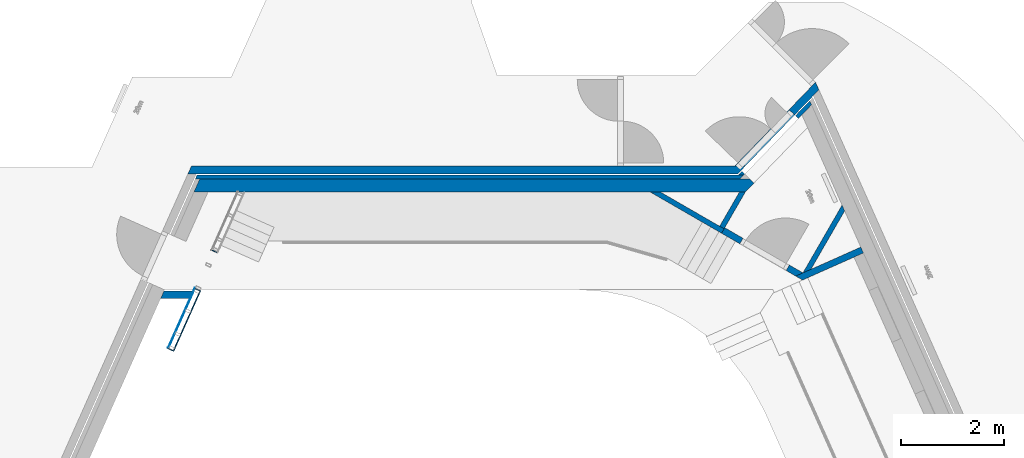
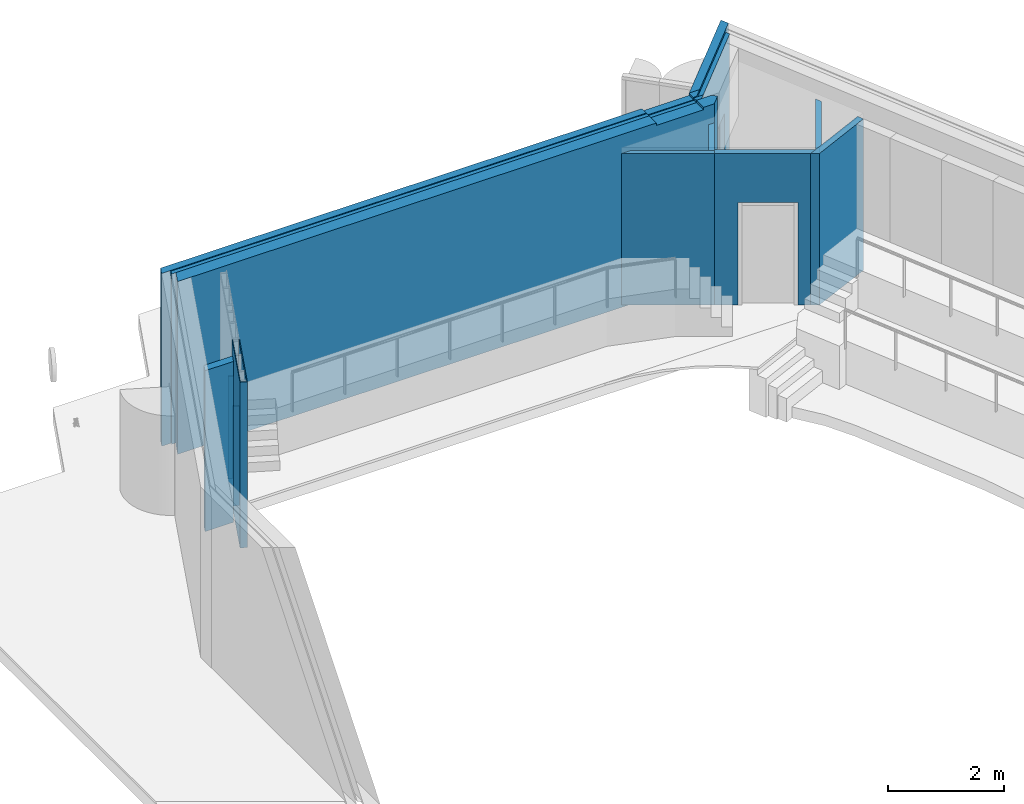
# One storey, part 9 of 16: 16 walls, 8 openings.
"""IFC2X3 building model written with IfcOpenShell, lengths in millimetres."""

from ifc_helpers import new_model, entity, si_unit, converted_unit, derived_unit, direction, frame, frame_2d, origin, place, context, subcontext, project, spatial, polyline, rectangle, outline, extrude, clip, halfspace, faceted_brep, material, layer, layer_set, layer_usage, type_object, element, save


model = new_model("IFC2X3")

# Units and contexts
model_context = context("Model", 3, precision=0.01, world=origin(), true_north=direction((6.123031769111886e-17, 1.0)))
body_context = subcontext(model_context, "Body", "Model", "MODEL_VIEW")
ifc_project = project(units=[si_unit("LENGTHUNIT", "METRE", prefix="MILLI"), si_unit("AREAUNIT", "SQUARE_METRE"), si_unit("VOLUMEUNIT", "CUBIC_METRE"), converted_unit("PLANEANGLEUNIT", "DEGREE", entity("IfcRatioMeasure", 0.017453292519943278), si_unit("PLANEANGLEUNIT", "RADIAN"), dimensions=[0, 0, 0, 0, 0, 0, 0]), si_unit("MASSUNIT", "GRAM", prefix="KILO"), derived_unit("MASSDENSITYUNIT", [(si_unit("MASSUNIT", "GRAM", prefix="KILO"), 1), (si_unit("LENGTHUNIT", "METRE"), -3)]), derived_unit("MOMENTOFINERTIAUNIT", [(si_unit("LENGTHUNIT", "METRE"), 4)]), si_unit("TIMEUNIT", "SECOND"), si_unit("FREQUENCYUNIT", "HERTZ"), si_unit("THERMODYNAMICTEMPERATUREUNIT", "DEGREE_CELSIUS"), derived_unit("THERMALTRANSMITTANCEUNIT", [(si_unit("MASSUNIT", "GRAM", prefix="KILO"), 1), (si_unit("THERMODYNAMICTEMPERATUREUNIT", "KELVIN"), -1), (si_unit("TIMEUNIT", "SECOND"), -3)]), derived_unit("VOLUMETRICFLOWRATEUNIT", [(si_unit("LENGTHUNIT", "METRE"), 3), (si_unit("TIMEUNIT", "SECOND"), -1)]), derived_unit("MASSFLOWRATEUNIT", [(si_unit("MASSUNIT", "GRAM", prefix="KILO"), 1), (si_unit("TIMEUNIT", "SECOND"), -1)]), derived_unit("ROTATIONALFREQUENCYUNIT", [(si_unit("TIMEUNIT", "SECOND"), -1)]), si_unit("ELECTRICCURRENTUNIT", "AMPERE"), si_unit("ELECTRICVOLTAGEUNIT", "VOLT"), si_unit("POWERUNIT", "WATT"), si_unit("FORCEUNIT", "NEWTON", prefix="KILO"), si_unit("ILLUMINANCEUNIT", "LUX"), si_unit("LUMINOUSFLUXUNIT", "LUMEN"), si_unit("LUMINOUSINTENSITYUNIT", "CANDELA"), derived_unit("USERDEFINED", [(si_unit("MASSUNIT", "GRAM", prefix="KILO"), -1), (si_unit("LENGTHUNIT", "METRE"), -2), (si_unit("TIMEUNIT", "SECOND"), 3), (si_unit("LUMINOUSFLUXUNIT", "LUMEN"), 1)]), derived_unit("SOUNDPOWERUNIT", [(si_unit("MASSUNIT", "GRAM", prefix="KILO"), 1), (si_unit("LENGTHUNIT", "METRE"), 2), (si_unit("TIMEUNIT", "SECOND"), -3)]), derived_unit("SOUNDPRESSUREUNIT", [(si_unit("MASSUNIT", "GRAM", prefix="KILO"), 1), (si_unit("LENGTHUNIT", "METRE"), -1), (si_unit("TIMEUNIT", "SECOND"), -2)]), derived_unit("LINEARVELOCITYUNIT", [(si_unit("LENGTHUNIT", "METRE"), 1), (si_unit("TIMEUNIT", "SECOND"), -1)]), si_unit("PRESSUREUNIT", "PASCAL"), derived_unit("USERDEFINED", [(si_unit("LENGTHUNIT", "METRE"), -2), (si_unit("MASSUNIT", "GRAM", prefix="KILO"), 1), (si_unit("TIMEUNIT", "SECOND"), -2)]), derived_unit("LINEARFORCEUNIT", [(si_unit("MASSUNIT", "GRAM", prefix="KILO"), 1), (si_unit("LENGTHUNIT", "METRE"), 1), (si_unit("TIMEUNIT", "SECOND"), -2), (si_unit("LENGTHUNIT", "METRE"), -1)]), derived_unit("PLANARFORCEUNIT", [(si_unit("MASSUNIT", "GRAM", prefix="KILO"), 1), (si_unit("LENGTHUNIT", "METRE"), 1), (si_unit("TIMEUNIT", "SECOND"), -2), (si_unit("LENGTHUNIT", "METRE"), -2)])], contexts=[model_context])

# Site, building, storey
site_placement = place(None, frame((-10000.0, -10000.0, 0.0)))
site = spatial("IfcSite", under=ifc_project, at=site_placement, Name="Default", CompositionType="ELEMENT")
building_placement = place(site_placement, origin())
building = spatial("IfcBuilding", under=site, at=building_placement, CompositionType="ELEMENT")
storey_placement = place(building_placement, frame((0.0, 0.0, 9000.0)))
storey = spatial("IfcBuildingStorey", under=building, at=storey_placement, Name="02 2e verdieping", CompositionType="ELEMENT", Elevation=9000.0)

# Wall, openings
ifc_material_1 = material(Name="NLRS_beton ihwg")
ifc_layer_1 = layer(ifc_material_1, 250.00000000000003)
ifc_layer_set_1 = layer_set([ifc_layer_1], Name="Basic Wall:NLRS_21_WA_beton 250mm_ags")
ifc_layer_usage_1 = layer_usage(ifc_layer_set_1, "AXIS2", "NEGATIVE", 125.00000000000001)
wall_type_1 = type_object("IfcWallType", Name="Basic Wall:NLRS_21_WA_beton 250mm_ags", PredefinedType="STANDARD", material=ifc_layer_set_1)
wall_1_placement = place(storey_placement, frame((28023.813445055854, 49277.0, -50.0)))
wall_1 = element("IfcWallStandardCase", 1, at=wall_1_placement, inside=storey, type_object=wall_type_1, material=ifc_layer_usage_1, Name="Basic Wall:NLRS_21_WA_beton 250mm_ags", ObjectType="Basic Wall:NLRS_21_WA_beton 250mm_ags", context=body_context, shape_type="Clipping", body=[
    clip(extrude(outline(polyline([(10722.450231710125, -125.0), (10890.335858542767, 48.989062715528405), (10811.561564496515, 125.0), (10616.272859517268, 125.0), (111.30717132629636, 125.0), (0.0, -125.0), (273.65906962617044, -125.0), (10722.450231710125, -125.0)])), origin(), (0.0, 0.0, 1.0), 3649.9999999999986), halfspace(frame((0.0, 0.0, -50.0)), True)),
])
opening_1_placement = place(wall_1_placement, origin())
element("IfcOpeningElement", 2, at=opening_1_placement, cuts=wall_1, Name="Basic Wall:NLRS_21_WA_beton 250mm_ags", ObjectType="Opening", context=body_context, shape_type="SweptSolid", body=[
    extrude(rectangle(XDim=2220.0, YDim=939.9999999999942, at=frame_2d((-1.1368683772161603e-12, 0.0), x_axis=(1.0, 0.0))), frame((10037.45023171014, -125.0, 4710.0), z_axis=(0.0, 1.0, 0.0), x_axis=(0.0, 0.0, -1.0)), (0.0, 0.0, 1.0), 249.99999999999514),
])
opening_2_placement = place(wall_1_placement, frame((10703.29303011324, 41.99002499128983, 0.0)))
element("IfcOpeningElement", 3, at=opening_2_placement, cuts=wall_1, Name="Basic Wall:NLRS_21_WA_beton 250mm_ags", ObjectType="Recess", context=body_context, shape_type="Brep", body=[
    faceted_brep([(194.29631424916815, 0.0, 2220.0), (1232.857734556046, 1076.3180356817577, 2220.0), (1114.3952003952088, 1342.3892437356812, 2220.0), (0.0, 187.48051170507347, 2220.0), (194.29631424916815, 0.0, 0.0), (0.0, 187.48051170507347, 0.0), (1114.3952003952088, 1342.3892437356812, 0.0), (1232.857734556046, 1076.3180356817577, 0.0)], [[[0, 1, 2, 3]], [[4, 5, 6, 7]], [[1, 0, 4, 7]], [[2, 1, 7, 6]], [[3, 2, 6, 5]], [[0, 3, 5, 4]]]),
])

# Wall, opening
ifc_material_2 = material(Name="NLRS_kalkzandsteen")
ifc_layer_2 = layer(ifc_material_2, 150.0)
ifc_layer_set_2 = layer_set([ifc_layer_2], Name="Basic Wall:NLRS_22_WA_kalkzandsteen 150mm_ags")
ifc_layer_usage_2 = layer_usage(ifc_layer_set_2, "AXIS2", "NEGATIVE", 75.0)
wall_type_2 = type_object("IfcWallType", Name="Basic Wall:NLRS_22_WA_kalkzandsteen 150mm_ags", PredefinedType="STANDARD", material=ifc_layer_set_2)
wall_2_placement = place(storey_placement, frame((27905.984415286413, 49577.0, -50.0)))
wall_2 = element("IfcWallStandardCase", 4, at=wall_2_placement, inside=storey, type_object=wall_type_2, material=ifc_layer_usage_2, Name="Basic Wall:NLRS_22_WA_kalkzandsteen 150mm_ags", ObjectType="Basic Wall:NLRS_22_WA_kalkzandsteen 150mm_ags", context=body_context, shape_type="Clipping", body=[
    clip(extrude(outline(polyline([(10691.741641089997, -75.0), (10836.479727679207, 75.0), (10628.035217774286, 75.0), (66.78430279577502, 75.0), (0.0, -75.0), (164.19544177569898, -75.0), (10691.741641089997, -75.0)])), origin(), (0.0, 0.0, 1.0), 3649.9999999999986), halfspace(frame((0.0, 0.0, -50.0)), True)),
])
opening_3_placement = place(wall_2_placement, origin())
element("IfcOpeningElement", 5, at=opening_3_placement, cuts=wall_2, Name="Basic Wall:NLRS_22_WA_kalkzandsteen 150mm_ags", ObjectType="Opening", context=body_context, shape_type="SweptSolid", body=[
    extrude(rectangle(XDim=2220.0, YDim=939.9999999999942, at=frame_2d((-1.1368683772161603e-12, 0.0), x_axis=(1.0, 0.0))), frame((10155.27926147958, -75.0, 4710.0), z_axis=(0.0, 1.0, 0.0), x_axis=(0.0, 0.0, -1.0)), (0.0, 0.0, 1.0), 150.00000000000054),
])

ifc_layer_usage_3 = layer_usage(ifc_layer_set_2, "AXIS2", "NEGATIVE", 75.0)
wall_3_placement = place(storey_placement, frame((38587.990831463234, 49599.92208008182, -50.0), z_axis=(0.0, 0.0, 1.0), x_axis=(0.6943722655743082, 0.7196159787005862, 0.0)))
wall_3 = element("IfcWallStandardCase", 6, at=wall_3_placement, inside=storey, type_object=wall_type_2, material=ifc_layer_usage_3, Name="Basic Wall:NLRS_22_WA_kalkzandsteen 150mm_ags", ObjectType="Basic Wall:NLRS_22_WA_kalkzandsteen 150mm_ags", context=body_context, shape_type="Clipping", body=[
    clip(extrude(outline(polyline([(2210.0027851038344, -75.0), (2270.676115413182, 75.0), (0.0, 75.0), (144.73808658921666, -75.0), (2048.1965645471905, -75.0), (2210.0027851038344, -75.0)])), origin(), (0.0, 0.0, 1.0), 3649.9999999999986), halfspace(frame((0.0, 0.0, -50.0)), True)),
])
opening_4_placement = place(wall_3_placement, origin())
element("IfcOpeningElement", 7, at=opening_4_placement, cuts=wall_3, Name="Basic Wall:NLRS_22_WA_kalkzandsteen 150mm_ags", ObjectType="Opening", context=body_context, shape_type="SweptSolid", body=[
    extrude(rectangle(XDim=2170.0000000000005, YDim=1499.7610140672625, at=frame_2d((0.0, -4.661160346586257e-12), x_axis=(1.0, 0.0))), frame((779.2293278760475, -227.4000000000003, 1135.0), z_axis=(0.0, 1.0, 0.0), x_axis=(0.0, 0.0, 1.0)), (0.0, 0.0, 1.0), 454.79999999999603),
])

# Wall
ifc_material_3 = material(Name="NLRS_MDF")
ifc_layer_3 = layer(ifc_material_3, 12.5)
ifc_material_4 = material(Name="NLRS_gipsplaat")
ifc_layer_4 = layer(ifc_material_4, 12.5)
ifc_material_5 = material(Name="NLRS_aluminium C-profielen met isolatie")
ifc_layer_5 = layer(ifc_material_5, 75.0)
ifc_layer_6 = layer(ifc_material_4, 12.5)
ifc_layer_7 = layer(ifc_material_4, 12.5)
ifc_layer_set_3 = layer_set([ifc_layer_3, ifc_layer_4, ifc_layer_5, ifc_layer_6, ifc_layer_7], Name="Basic Wall:NLRS_22_WA_ms-wand mdf gips iso gips gips 125mm 25-75-25_ags")
ifc_layer_usage_4 = layer_usage(ifc_layer_set_3, "AXIS2", "NEGATIVE", 62.50000000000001)
wall_type_3 = type_object("IfcWallType", Name="Basic Wall:NLRS_22_WA_ms-wand mdf gips iso gips gips 125mm 25-75-25_ags", PredefinedType="STANDARD", material=ifc_layer_set_3)
wall_4_placement = place(storey_placement, frame((41016.2962945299, 48022.74735275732, 0.0), z_axis=(0.0, 0.0, 1.0), x_axis=(-0.9135931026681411, -0.40662961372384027, 0.0)))
element("IfcWallStandardCase", 8, at=wall_4_placement, inside=storey, type_object=wall_type_3, material=ifc_layer_usage_4, Name="Basic Wall:NLRS_22_WA_ms-wand mdf gips iso gips gips 125mm 25-75-25_ags", ObjectType="Basic Wall:NLRS_22_WA_ms-wand mdf gips iso gips gips 125mm 25-75-25_ags", context=body_context, shape_type="SweptSolid", body=[
    extrude(outline(polyline([(1386.1603890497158, -62.49999999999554), (1295.3201965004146, 62.49999999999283), (0.0, 62.50000000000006), (0.0, -62.500000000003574), (1061.5360044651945, -62.5000000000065), (1231.638738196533, -62.49999999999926), (1386.1603890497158, -62.49999999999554)])), origin(), (0.0, 0.0, 1.0), 3200.0),
])

# Wall, opening
ifc_layer_usage_5 = layer_usage(ifc_layer_set_3, "AXIS2", "NEGATIVE", 62.50000000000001)
wall_5_placement = place(storey_placement, frame((39834.41528747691, 47524.899549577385, 0.0), z_axis=(0.0, 0.0, 1.0), x_axis=(-0.8660254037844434, 0.4999999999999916, 0.0)))
wall_5 = element("IfcWallStandardCase", 9, at=wall_5_placement, inside=storey, type_object=wall_type_3, material=ifc_layer_usage_5, Name="Basic Wall:NLRS_22_WA_ms-wand mdf gips iso gips gips 125mm 25-75-25_ags", ObjectType="Basic Wall:NLRS_22_WA_ms-wand mdf gips iso gips gips 125mm 25-75-25_ags", context=body_context, shape_type="SweptSolid", body=[
    extrude(outline(polyline([(0.0, -62.4999999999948), (1755.9171632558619, -62.499999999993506), (1755.9171632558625, 62.50000000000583), (90.84019254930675, 62.50000000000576), (0.0, -62.4999999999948)])), origin(), (0.0, 0.0, 1.0), 3200.0),
])
opening_5_placement = place(wall_5_placement, origin())
element("IfcOpeningElement", 10, at=opening_5_placement, cuts=wall_5, Name="Basic Wall:NLRS_22_WA_ms-wand mdf gips iso gips gips 125mm 25-75-25_ags", ObjectType="Opening", context=body_context, shape_type="SweptSolid", body=[
    extrude(rectangle(XDim=2170.0000000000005, YDim=1039.9999999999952, at=frame_2d((-3.751665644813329e-12, 0.0), x_axis=(0.0, 1.0))), frame((825.5443286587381, -214.89999999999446, 1085.0), z_axis=(0.0, 1.0, 0.0), x_axis=(-1.0, 0.0, 0.0)), (0.0, 0.0, 1.0), 429.79999999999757),
])

# Walls
ifc_layer_8 = layer(ifc_material_3, 12.5)
ifc_layer_9 = layer(ifc_material_4, 12.5)
ifc_layer_10 = layer(ifc_material_5, 75.0)
ifc_layer_set_4 = layer_set([ifc_layer_8, ifc_layer_9, ifc_layer_10], Name="Basic Wall:NLRS_22_WA_ms-wand mdf gips iso 100mm 25-75_ags")
ifc_layer_usage_6 = layer_usage(ifc_layer_set_4, "AXIS2", "POSITIVE", -50.0)
wall_type_4 = type_object("IfcWallType", Name="Basic Wall:NLRS_22_WA_ms-wand mdf gips iso 100mm 25-75_ags", PredefinedType="STANDARD", material=ifc_layer_set_4)
wall_6_placement = place(storey_placement, frame((36916.19463832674, 49195.30127018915, 0.0), z_axis=(0.0, 0.0, 1.0), x_axis=(0.8660254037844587, -0.4999999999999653, 0.0)))
element("IfcWallStandardCase", 11, at=wall_6_placement, inside=storey, type_object=wall_type_4, material=ifc_layer_usage_6, Name="Basic Wall:NLRS_22_WA_ms-wand mdf gips iso 100mm 25-75_ags", ObjectType="Basic Wall:NLRS_22_WA_ms-wand mdf gips iso 100mm 25-75_ags", context=body_context, shape_type="SweptSolid", body=[
    extrude(outline(polyline([(1606.5369130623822, -50.0), (1606.5369130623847, 50.0), (1506.5369130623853, 50.0), (173.20508075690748, 50.0), (0.0, -50.0), (1606.5369130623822, -50.0)])), origin(), (0.0, 0.0, 1.0), 3200.0),
])
ifc_layer_11 = layer(ifc_material_4, 12.5)
ifc_layer_12 = layer(ifc_material_4, 12.5)
ifc_layer_13 = layer(ifc_material_5, 75.0)
ifc_layer_set_5 = layer_set([ifc_layer_11, ifc_layer_12, ifc_layer_13], Name="Basic Wall:NLRS_22_WA_ms-wand gips iso 100mm 25-75_ags")
ifc_layer_usage_7 = layer_usage(ifc_layer_set_5, "AXIS2", "NEGATIVE", 50.0)
wall_type_5 = type_object("IfcWallType", Name="Basic Wall:NLRS_22_WA_ms-wand gips iso 100mm 25-75_ags", PredefinedType="STANDARD", material=ifc_layer_set_5)
wall_7_placement = place(storey_placement, frame((38702.96240657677, 49177.0, 0.0), z_axis=(0.0, 0.0, 1.0), x_axis=(-0.49999999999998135, -0.8660254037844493, 0.0)))
element("IfcWallStandardCase", 12, at=wall_7_placement, inside=storey, type_object=wall_type_5, material=ifc_layer_usage_7, Name="Basic Wall:NLRS_22_WA_ms-wand gips iso 100mm 25-75_ags", ObjectType="Basic Wall:NLRS_22_WA_ms-wand gips iso 100mm 25-75_ags", context=body_context, shape_type="SweptSolid", body=[
    extrude(outline(polyline([(827.5345192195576, -50.0), (827.534519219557, 50.0), (0.0, 50.0), (57.73502691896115, -50.0), (827.5345192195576, -50.0)])), origin(), (0.0, 0.0, 1.0), 3200.0),
])
ifc_layer_usage_8 = layer_usage(ifc_layer_set_5, "AXIS2", "NEGATIVE", 50.0)
wall_8_placement = place(storey_placement, frame((39908.966557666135, 47554.0261373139, 0.0), z_axis=(0.0, 0.0, 1.0), x_axis=(0.4999999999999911, 0.8660254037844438, 0.0)))
element("IfcWallStandardCase", 13, at=wall_8_placement, inside=storey, type_object=wall_type_5, material=ifc_layer_usage_8, Name="Basic Wall:NLRS_22_WA_ms-wand gips iso 100mm 25-75_ags", ObjectType="Basic Wall:NLRS_22_WA_ms-wand gips iso 100mm 25-75_ags", context=body_context, shape_type="SweptSolid", body=[
    extrude(outline(polyline([(1449.725890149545, -50.0), (1522.3801429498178, 50.0), (0.0, 50.0), (137.60428780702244, -50.0), (1449.725890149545, -50.0)])), origin(), (0.0, 0.0, 1.0), 3200.0),
])
ifc_material_6 = material(Name="NLRS_multiplex")
ifc_layer_14 = layer(ifc_material_6, 18.0)
ifc_layer_set_6 = layer_set([ifc_layer_14], Name="Basic Wall:NLRS_42_WA_multiplex 18mm_ags")
ifc_layer_usage_9 = layer_usage(ifc_layer_set_6, "AXIS2", "NEGATIVE", 9.000000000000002)
wall_type_6 = type_object("IfcWallType", Name="Basic Wall:NLRS_42_WA_multiplex 18mm_ags", PredefinedType="STANDARD", material=ifc_layer_set_6)
wall_9_placement = place(storey_placement, frame((27514.67111806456, 46113.51809799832, 0.0), z_axis=(0.0, 0.0, 1.0), x_axis=(0.9135205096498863, -0.40679267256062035, 0.0)))
element("IfcWallStandardCase", 14, at=wall_9_placement, inside=storey, type_object=wall_type_6, material=ifc_layer_usage_9, Name="Basic Wall:NLRS_42_WA_multiplex 18mm_ags", ObjectType="Basic Wall:NLRS_42_WA_multiplex 18mm_ags", context=body_context, shape_type="Clipping", body=[
    clip(extrude(rectangle(XDim=131.01615960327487, YDim=17.999999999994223, at=frame_2d((65.5080798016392, -1.9557688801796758e-12), x_axis=(-1.0, 0.0))), origin(), (0.0, 0.0, 1.0), 3500.0000000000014), halfspace(frame((0.0, 0.0, -4800.0)), True)),
])
ifc_layer_usage_10 = layer_usage(ifc_layer_set_6, "AXIS2", "NEGATIVE", 9.000000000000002)
wall_10_placement = place(storey_placement, frame((28378.736642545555, 48021.96343308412, 0.0), z_axis=(0.0, 0.0, 1.0), x_axis=(0.9135205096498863, -0.40679267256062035, 0.0)))
element("IfcWallStandardCase", 15, at=wall_10_placement, inside=storey, type_object=wall_type_6, material=ifc_layer_usage_10, Name="Basic Wall:NLRS_42_WA_multiplex 18mm_ags", ObjectType="Basic Wall:NLRS_42_WA_multiplex 18mm_ags", context=body_context, shape_type="SweptSolid", body=[
    extrude(rectangle(XDim=100.13998489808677, YDim=18.00000000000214, at=frame_2d((50.069992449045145, -5.46052092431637e-12), x_axis=(-1.0, 0.0))), origin(), (0.0, 0.0, 1.0), 2170.0000000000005),
])
ifc_layer_usage_11 = layer_usage(ifc_layer_set_6, "AXIS2", "NEGATIVE", 9.000000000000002)
wall_11_placement = place(storey_placement, frame((28045.166651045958, 47272.87661517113, 0.0), z_axis=(0.0, 0.0, 1.0), x_axis=(0.9135205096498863, -0.40679267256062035, 0.0)))
element("IfcWallStandardCase", 16, at=wall_11_placement, inside=storey, type_object=wall_type_6, material=ifc_layer_usage_11, Name="Basic Wall:NLRS_42_WA_multiplex 18mm_ags", ObjectType="Basic Wall:NLRS_42_WA_multiplex 18mm_ags", context=body_context, shape_type="SweptSolid", body=[
    extrude(rectangle(XDim=109.13998489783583, YDim=18.000000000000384, at=frame_2d((54.5699924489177, -5.865530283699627e-12), x_axis=(-1.0, 0.0))), origin(), (0.0, 0.0, 1.0), 2106.9999999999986),
])
ifc_layer_usage_12 = layer_usage(ifc_layer_set_6, "AXIS2", "NEGATIVE", 9.000000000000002)
wall_12_placement = place(storey_placement, frame((28148.416282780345, 47236.75132484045, 0.0), z_axis=(0.0, 0.0, 1.0), x_axis=(-0.406792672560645, -0.9135205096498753, 0.0)))
element("IfcWallStandardCase", 17, at=wall_12_placement, inside=storey, type_object=wall_type_6, material=ifc_layer_usage_12, Name="Basic Wall:NLRS_42_WA_multiplex 18mm_ags", ObjectType="Basic Wall:NLRS_42_WA_multiplex 18mm_ags", context=body_context, shape_type="Clipping", body=[
    clip(extrude(rectangle(XDim=1274.8994791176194, YDim=17.99999999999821, at=frame_2d((637.4497395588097, 1.3207213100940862e-12), x_axis=(-1.0, 0.0))), origin(), (0.0, 0.0, 1.0), 3499.999999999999), halfspace(frame((0.0, 0.0, -4800.0)), True)),
])
ifc_layer_15 = layer(ifc_material_6, 13.000000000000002)
ifc_layer_set_7 = layer_set([ifc_layer_15], Name="Basic Wall:NLRS_42_WA_multiplex 13mm_ags")
ifc_layer_usage_13 = layer_usage(ifc_layer_set_7, "AXIS2", "NEGATIVE", 6.499999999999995)
wall_type_7 = type_object("IfcWallType", Name="Basic Wall:NLRS_42_WA_multiplex 13mm_ags", PredefinedType="STANDARD", material=ifc_layer_set_7)
wall_13_placement = place(storey_placement, frame((28042.88990178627, 47283.742452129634, 0.0), z_axis=(0.0, 0.0, 1.0), x_axis=(-0.4067926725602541, -0.9135205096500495, 0.0)))
element("IfcWallStandardCase", 18, at=wall_13_placement, inside=storey, type_object=wall_type_7, material=ifc_layer_usage_13, Name="Basic Wall:NLRS_42_WA_multiplex 13mm_ags", ObjectType="Basic Wall:NLRS_42_WA_multiplex 13mm_ags", context=body_context, shape_type="Clipping", body=[
    clip(extrude(rectangle(XDim=1274.899479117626, YDim=13.000000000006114, at=frame_2d((637.4497395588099, -5.843769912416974e-12), x_axis=(-1.0, 0.0))), origin(), (0.0, 0.0, 1.0), 3499.999999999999), halfspace(frame((0.0, 0.0, -4800.0)), True)),
])

# Wall, opening
ifc_material_7 = material(Name="NLRS_isolatie")
ifc_layer_16 = layer(ifc_material_7, 80.0)
ifc_layer_set_8 = layer_set([ifc_layer_16], Name="Basic Wall:NLRS_21_WA_isolatie 80mm_ags")
ifc_layer_usage_14 = layer_usage(ifc_layer_set_8, "AXIS2", "NEGATIVE", 40.0)
wall_type_8 = type_object("IfcWallType", Name="Basic Wall:NLRS_21_WA_isolatie 80mm_ags", PredefinedType="STANDARD", material=ifc_layer_set_8)
wall_14_placement = place(storey_placement, frame((38717.27995075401, 49442.0, 0.0), z_axis=(0.0, 0.0, 1.0), x_axis=(-1.0, 0.0, 0.0)))
wall_14 = element("IfcWallStandardCase", 19, at=wall_14_placement, inside=storey, type_object=wall_type_8, material=ifc_layer_usage_14, Name="Basic Wall:NLRS_21_WA_isolatie 80mm_ags", ObjectType="Basic Wall:NLRS_21_WA_isolatie 80mm_ags", context=body_context, shape_type="Clipping", body=[
    clip(extrude(outline(polyline([(10634.111941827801, -40.0), (10669.730236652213, 40.0), (10582.159334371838, 40.0), (77.19364618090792, 40.0), (0.0, -40.0), (111.17040528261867, -40.0), (10634.111941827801, -40.0)])), origin(), (0.0, 0.0, 1.0), 3600.0000000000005), halfspace(frame((0.0, 0.0, -4800.0)), True)),
])
opening_6_placement = place(wall_14_placement, origin())
element("IfcOpeningElement", 20, at=opening_6_placement, cuts=wall_14, Name="Basic Wall:NLRS_21_WA_isolatie 80mm_ags", ObjectType="Opening", context=body_context, shape_type="SweptSolid", body=[
    extrude(rectangle(XDim=2220.0, YDim=939.9999999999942, at=frame_2d((-1.1368683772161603e-12, 0.0), x_axis=(1.0, 0.0))), frame((656.0162739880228, -40.0, 4660.0), z_axis=(0.0, 1.0, 0.0), x_axis=(0.0, 0.0, -1.0)), (0.0, 0.0, 1.0), 79.99999999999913),
])

# Wall, openings
ifc_layer_usage_15 = layer_usage(ifc_layer_set_8, "AXIS2", "NEGATIVE", 40.0)
wall_15_placement = place(storey_placement, frame((40026.79510740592, 50896.7282081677, 0.0), z_axis=(0.0, 0.0, 1.0), x_axis=(-0.6943722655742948, -0.7196159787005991, 0.0)))
wall_15 = element("IfcWallStandardCase", 21, at=wall_15_placement, inside=storey, type_object=wall_type_8, material=ifc_layer_usage_15, Name="Basic Wall:NLRS_21_WA_isolatie 80mm_ags", ObjectType="Basic Wall:NLRS_21_WA_isolatie 80mm_ags", context=body_context, shape_type="Clipping", body=[
    clip(extrude(outline(polyline([(0.0, -40.0), (2004.5456764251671, -40.0), (1927.3520302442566, 40.0), (32.35910949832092, 40.0), (0.0, -40.0)])), origin(), (0.0, 0.0, 1.0), 3600.0000000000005), halfspace(frame((0.0, 0.0, -4800.0)), True)),
])
opening_7_placement = place(wall_15_placement, origin())
element("IfcOpeningElement", 22, at=opening_7_placement, cuts=wall_15, Name="Basic Wall:NLRS_21_WA_isolatie 80mm_ags", ObjectType="Opening", context=body_context, shape_type="SweptSolid", body=[
    extrude(rectangle(XDim=2220.0, YDim=1499.761014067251, at=frame_2d((-1.1368683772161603e-12, -4.604316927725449e-12), x_axis=(1.0, 0.0))), frame((1153.0388679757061, -40.0, 1060.0), z_axis=(0.0, 1.0, 0.0), x_axis=(0.0, 0.0, -1.0)), (0.0, 0.0, 1.0), 79.99999999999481),
])
opening_8_placement = place(wall_15_placement, frame((2032.8763387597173, 165.39814848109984, -4850.0)))
element("IfcOpeningElement", 23, at=opening_8_placement, cuts=wall_15, Name="Basic Wall:NLRS_21_WA_isolatie 80mm_ags", ObjectType="Opening", context=body_context, shape_type="Brep", body=[
    faceted_brep([(-129.95696375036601, 134.6815134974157, 2220.0), (-1625.64086674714, 134.6815134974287, 2220.0), (-1730.8401950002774, -125.3981484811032, 2220.0), (-129.95696375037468, -125.39814848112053, 2220.0), (-129.95696375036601, 134.6815134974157, 0.0), (-129.95696375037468, -125.39814848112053, 0.0), (-1730.8401950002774, -125.3981484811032, 0.0), (-1625.64086674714, 134.6815134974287, 0.0)], [[[0, 1, 2, 3]], [[4, 5, 6, 7]], [[1, 0, 4, 7]], [[2, 1, 7, 6]], [[3, 2, 6, 5]], [[0, 3, 5, 4]]]),
])

# Wall
ifc_layer_17 = layer(ifc_material_4, 12.5)
ifc_layer_18 = layer(ifc_material_4, 12.5)
ifc_material_8 = material(Name="NLRS_aluminium C-profielen")
ifc_layer_19 = layer(ifc_material_8, 100.0)
ifc_layer_20 = layer(ifc_material_4, 12.5)
ifc_layer_21 = layer(ifc_material_4, 12.5)
ifc_layer_set_9 = layer_set([ifc_layer_17, ifc_layer_18, ifc_layer_19, ifc_layer_20, ifc_layer_21], Name="Basic Wall:NLRS_22_WA_ms-wand gips gips 150mm 25-100-25_ags")
ifc_layer_usage_16 = layer_usage(ifc_layer_set_9, "AXIS2", "NEGATIVE", 75.0)
wall_type_9 = type_object("IfcWallType", Name="Basic Wall:NLRS_22_WA_ms-wand gips gips 150mm 25-100-25_ags", PredefinedType="STANDARD", material=ifc_layer_set_9)
wall_16_placement = place(storey_placement, frame((27374.51345004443, 47154.0, -200.0)))
element("IfcWallStandardCase", 24, at=wall_16_placement, inside=storey, type_object=wall_type_9, material=ifc_layer_usage_16, Name="Basic Wall:NLRS_22_WA_ms-wand gips gips 150mm 25-100-25_ags", ObjectType="Basic Wall:NLRS_22_WA_ms-wand gips gips 150mm 25-100-25_ags", context=body_context, shape_type="SweptSolid", body=[
    extrude(outline(polyline([(570.0888617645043, -75.0), (636.8841884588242, 75.0), (66.78430279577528, 75.0), (0.0, -75.0), (570.0888617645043, -75.0)])), origin(), (0.0, 0.0, 1.0), 3399.999999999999),
])

save(model, "model.ifc")
